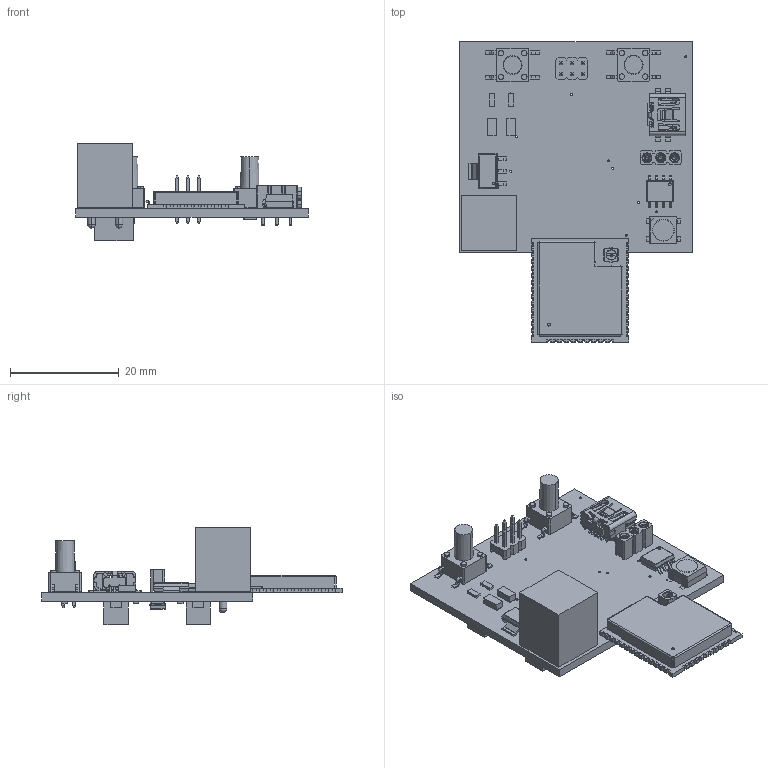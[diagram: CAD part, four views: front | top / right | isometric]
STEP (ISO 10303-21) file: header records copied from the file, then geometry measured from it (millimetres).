
FILE_DESCRIPTION(('PCB Model'),'2;1');
FILE_NAME('C:\Users\Andrei\Desktop\licenta 1.2\licenta 1.STEP', '2025-06-04T15:29:36',('Andrei'),('Unspecified'), 'Open CASCADE STEP processor 6.8','Proteus','Unknown');
FILE_SCHEMA(('AUTOMOTIVE_DESIGN { 1 0 10303 214 1 1 1 1 }'));
Length unit declared in the file: millimetre
Products named in the file (107): Open CASCADE STEP translator 6.8 3; Layer_1; U1; Open CASCADE STEP translator 6.8 3.2.1; Body_1; =>[0:1:1:3]; =>[0:1:1:4]; =>[0:1:1:5]; =>[0:1:1:6]; =>[0:1:1:7]; =>[0:1:1:8]; =>[0:1:1:9]; =>[0:1:1:10]; =>[0:1:1:11]; =>[0:1:1:12]; =>[0:1:1:13]; =>[0:1:1:14]; BAT; Open CASCADE STEP translator 6.8 3.3.1; Pin_1; Pin_2; J1; Open CASCADE STEP translator 6.8 3.4.1; UX60SC-MB-5ST; BOOT; Open CASCADE STEP translator 6.8 3.5.1; EN; Open CASCADE STEP translator 6.8 3.6.1; C4; Open CASCADE STEP translator 6.8 3.7.1; C1; Open CASCADE STEP translator 6.8 3.8.1; U2; Open CASCADE STEP translator 6.8 3.9.1; =>[0:1:1:2]; SOLID; U5; Open CASCADE STEP translator 6.8 3.10.1; C3; C2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
Assembly tree (115 placements, depth 6):
  Open CASCADE STEP translator 6.8 3
    Layer_1
    U1
      Open CASCADE STEP translator 6.8 3.2.1
        Body_1
          =>[0:1:1:3]
          =>[0:1:1:4]
          =>[0:1:1:5]
          =>[0:1:1:6]
          =>[0:1:1:7]
          =>[0:1:1:8]
          =>[0:1:1:9]
          =>[0:1:1:10]
          =>[0:1:1:11]
          =>[0:1:1:12]
          =>[0:1:1:13]
          =>[0:1:1:14]
    BAT
      Open CASCADE STEP translator 6.8 3.3.1
        Body_1
        Pin_1
        Pin_2
    J1
      Open CASCADE STEP translator 6.8 3.4.1
        Body_1
          UX60SC-MB-5ST
    BOOT
      Open CASCADE STEP translator 6.8 3.5.1
        Body_1
    EN
      Open CASCADE STEP translator 6.8 3.6.1
        Body_1
    C4
      Open CASCADE STEP translator 6.8 3.7.1
        Body_1
        Pin_1
        Pin_2
    C1
      Open CASCADE STEP translator 6.8 3.8.1
        Body_1
        Pin_1
        Pin_2
    U2
      Open CASCADE STEP translator 6.8 3.9.1
        Body_1
          =>[0:1:1:2]
          =>[0:1:1:3]
            SOLID
            SOLID
            SOLID
          =>[0:1:1:4]
            SOLID
            SOLID
    U5
      Open CASCADE STEP translator 6.8 3.10.1
        Body_1
          =>[0:1:1:2]
          =>[0:1:1:3]
            SOLID
            SOLID
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Bounding box: 42.76 x 55.38 x 17.91 mm (x, y, z)
Volume: 5240 mm3; surface area: 8129.2 mm2
Topology: 82 solids, 82 shells, 2351 faces, 6177 edges, 4018 vertices
Faces by surface type: plane 1724, cylinder 524, cone 74, sphere 11, bspline 10, torus 8
Entity records: 76318 total; most frequent: CARTESIAN_POINT 12331, ORIENTED_EDGE 10838, DIRECTION 10591, EDGE_CURVE 5419, LINE 4361, VECTOR 4361, VERTEX_POINT 3526, AXIS2_PLACEMENT_3D 3115
